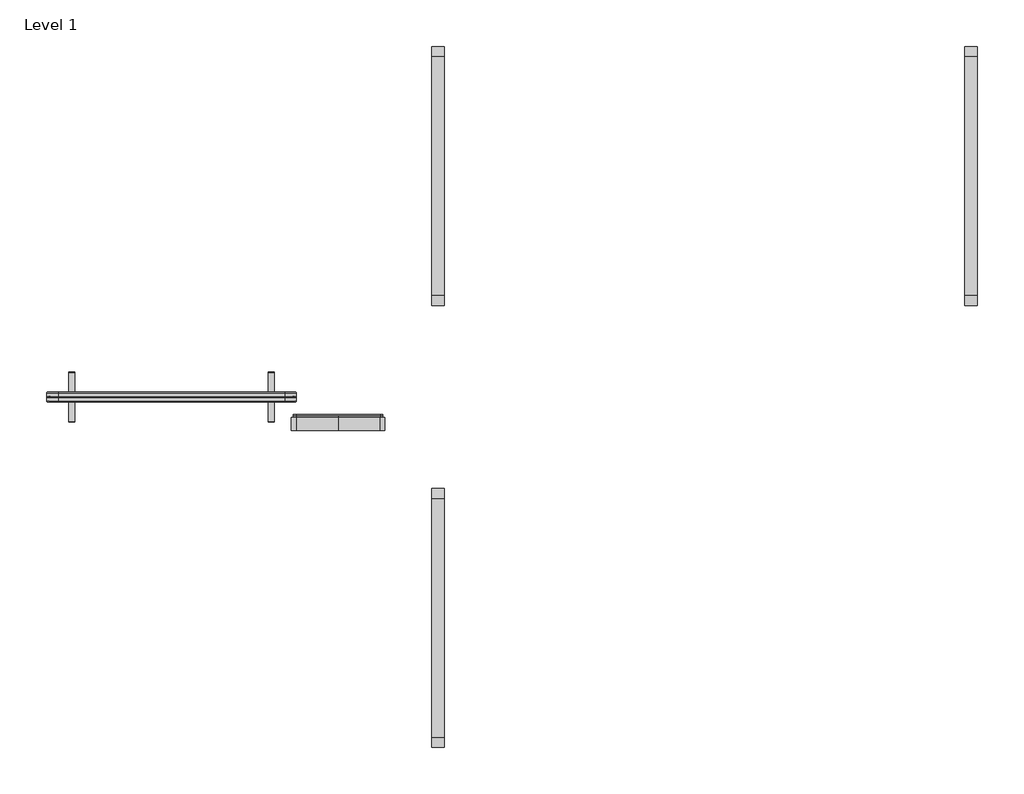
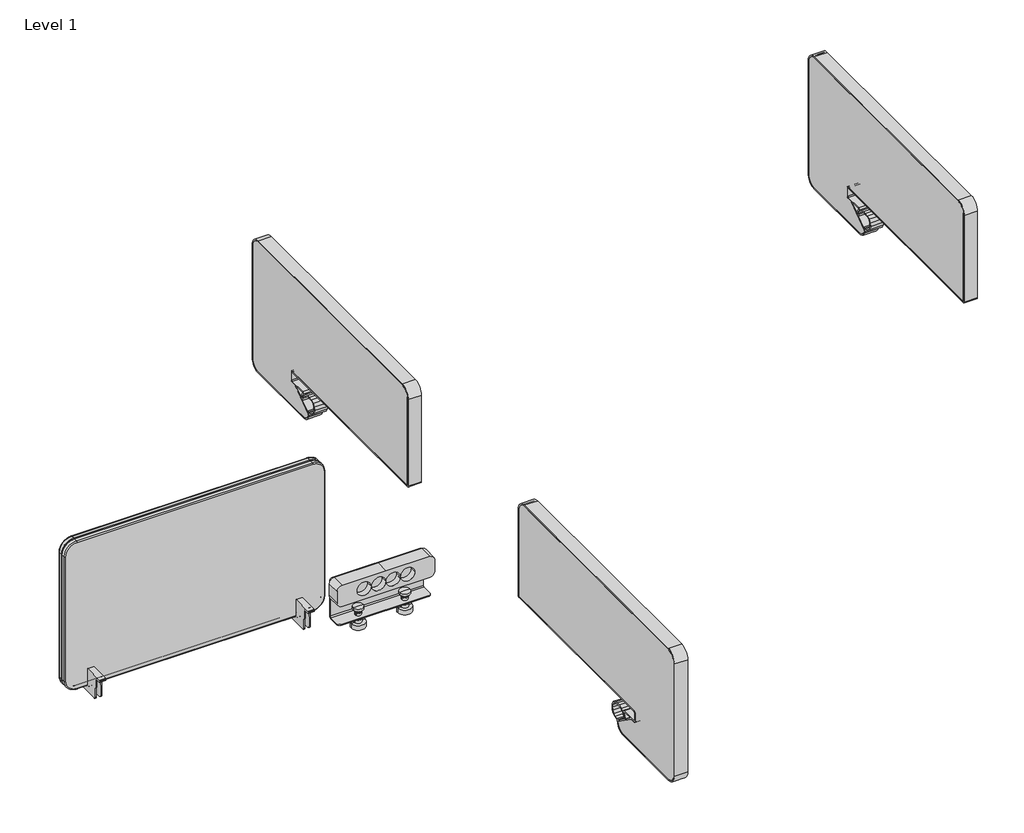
# One storey, incomplete: 4 furniture elements.
"""IFC4 building model written with IfcOpenShell, lengths in millimetres."""

from ifc_helpers import new_model, si_unit, origin, place, context, project, spatial, transform, mapped, element, save
from components import furniture_290953c2, furniture_08cc426a, furniture_e0e3dfeb, furniture_8c58d9b5, furniture_81d2e026

model = new_model("IFC4")

# Units and contexts
model_context = context("Model", 3, world=origin())
ifc_project = project(units=[si_unit("LENGTHUNIT", "METRE", prefix="MILLI")], contexts=[model_context])

# Site, building, storey
site = spatial("IfcSite", under=ifc_project)
building = spatial("IfcBuilding", under=site)
storey = spatial("IfcBuildingStorey", under=building, Name="Level 1", Elevation=0.0)

# Furniture
placement = place(None, origin())
furniture_shape = furniture_290953c2(model_context)
furniture_2_shape = furniture_08cc426a(model_context)
element("IfcFurniture", 1, ObjectType="Vitra-Joyn_2-Accesories_rfa : Joyn 2 Platform - Central screen", at=placement, inside=storey, context=model_context, shape_type="MappedRepresentation", body=[
    mapped(furniture_shape, transform((-6303.2519108, -1170.516777, 0.0), x_axis=(1.0, 0.0, 0.0), y_axis=(0.0, 1.0, 0.0), z_axis=(0.0, 0.0, 1.0))),
    mapped(furniture_2_shape, transform((-6303.2519108, -1170.516777, 0.0), x_axis=(1.0, 0.0, 0.0), y_axis=(0.0, 1.0, 0.0), z_axis=(0.0, 0.0, 1.0))),
])
furniture_3_shape = furniture_e0e3dfeb(model_context)
element("IfcFurniture", 2, ObjectType="Vitra-Joyn_2-Accesories_rfa : Joyn 2 Platform - Electrification, solo", at=placement, inside=storey, context=model_context, shape_type="MappedRepresentation", body=[
    mapped(furniture_3_shape, transform((-5503.2519108, -1170.516777, 0.0), x_axis=(-1.0, 0.0, 0.0), y_axis=(0.0, -1.0, 0.0), z_axis=(0.0, 0.0, 1.0))),
])
furniture_4_shape = furniture_8c58d9b5(model_context)
element("IfcFurniture", 3, ObjectType="Vitra-Joyn_2-Accesories_rfa : Joyn 2 Platform - Side screen, dual", at=placement, inside=storey, context=model_context, shape_type="MappedRepresentation", body=[
    mapped(furniture_4_shape, transform((-5503.2519108, -1170.516777, 0.0), x_axis=(1.0, 0.0, 0.0), y_axis=(0.0, 1.0, 0.0), z_axis=(0.0, 0.0, 1.0))),
])
furniture_5_shape = furniture_81d2e026(model_context)
element("IfcFurniture", 4, ObjectType="Vitra-Joyn_2-Accesories_rfa : Joyn 2 Platform - Side screen, solo", at=placement, inside=storey, context=model_context, shape_type="MappedRepresentation", body=[
    mapped(furniture_5_shape, transform((-3903.2519108, -1170.516777, 0.0), x_axis=(1.0, 0.0, 0.0), y_axis=(0.0, 1.0, 0.0), z_axis=(0.0, 0.0, 1.0))),
])

save(model, "model.ifc")
